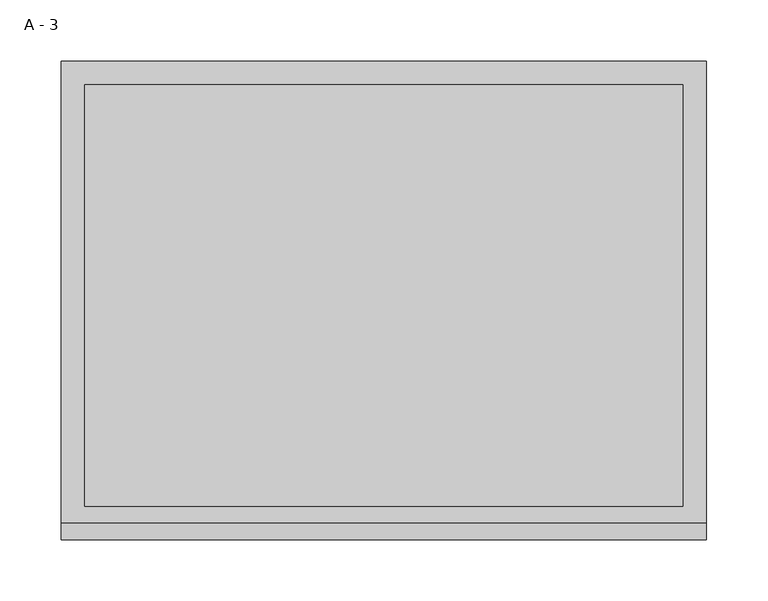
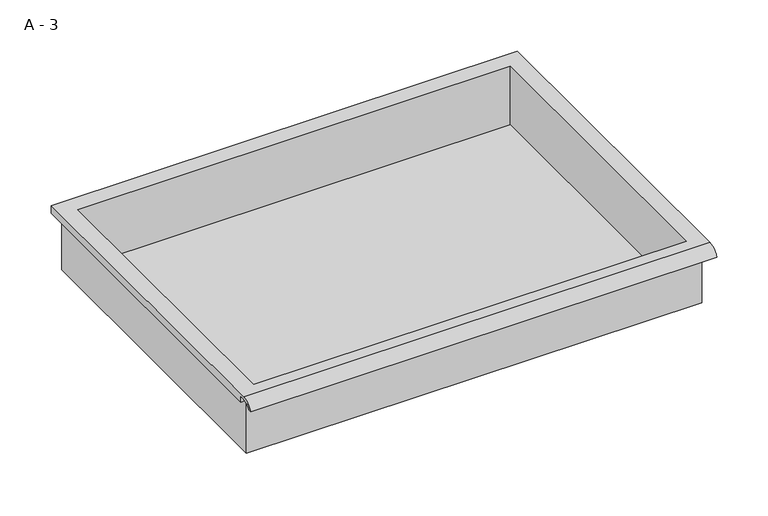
"""IFC4 building model written with IfcOpenShell, lengths in millimetres: furniture geometry, HermanMiller_CoStruc_CO207_Drawer : A - 3."""

import ifcopenshell
import ifcopenshell.guid

model = None  # the IFC model being written
_history = None  # IfcOwnerHistory: only IFC2X3 demands one
_inside = {}  # id of a spatial element -> (the spatial element, [elements in it])
_under = {}  # id of a project, library or spatial element -> (it, [spatial elements below it])
_declared = {}  # id of a project -> (the project, [libraries it declares])
_typed = {}  # id of a type object -> (the type object, [elements of that type])
_made_of = {}  # id of a material, layer set ... -> (it, [elements and type objects made of it])


def new_model(schema):
    """Start an empty IFC model of exactly this schema.

    Asked for "IFC4X3", IfcOpenShell would pick the latest addendum, in which some entities
    have other attributes; the version numbers below select the first issue.
    IFC2X3 requires an IfcOwnerHistory on every rooted entity: one is made here for all.
    """
    global model, _history
    if schema == "IFC4X3":
        model = ifcopenshell.file(schema_version=(4, 3, 0, 0))
    else:
        model = ifcopenshell.file(schema=schema)
    _inside.clear()
    _under.clear()
    _declared.clear()
    _typed.clear()
    _made_of.clear()
    _history = None
    if model.schema == "IFC2X3":
        org = make("IfcOrganization", Name="unknown")
        user = make(
            "IfcPersonAndOrganization",
            ThePerson=make("IfcPerson", FamilyName="unknown"),
            TheOrganization=org,
        )
        app = make(
            "IfcApplication",
            ApplicationDeveloper=org,
            Version="unknown",
            ApplicationFullName="unknown",
            ApplicationIdentifier="unknown",
        )
        _history = make(
            "IfcOwnerHistory",
            OwningUser=user,
            OwningApplication=app,
            ChangeAction="ADDED",
            CreationDate=0,
        )
    return model


def make(cls, **values):
    """One entity of the class cls with the attributes given. An attribute that is None is left unset."""
    return model.create_entity(
        cls, **{name: value for name, value in values.items() if value is not None}
    )


def rooted(cls, **values):
    """An entity with a GlobalId (a new one), such as an element, a storey or a relation."""
    return make(cls, GlobalId=ifcopenshell.guid.new(), OwnerHistory=_history, **values)


def si_unit(unit_type, name, prefix=None):
    """IfcSIUnit, for example si_unit("LENGTHUNIT", "METRE", prefix="MILLI")."""
    return make("IfcSIUnit", UnitType=unit_type, Prefix=prefix, Name=name)


def assignment(units):
    """IfcUnitAssignment: the units of a project."""
    return None if units is None else make("IfcUnitAssignment", Units=units)


def point(xyz):
    """IfcCartesianPoint."""
    return None if xyz is None else make("IfcCartesianPoint", Coordinates=xyz)


def direction(xyz):
    """IfcDirection."""
    return None if xyz is None else make("IfcDirection", DirectionRatios=xyz)


def frame(location, z_axis=None, x_axis=None):
    """IfcAxis2Placement3D, a coordinate frame: its origin and axes. An axis left out is left unset."""
    return make(
        "IfcAxis2Placement3D",
        Location=point(location),
        Axis=direction(z_axis),
        RefDirection=direction(x_axis),
    )


def origin():
    """The frame at (0, 0, 0) with its axes left unset."""
    return frame((0.0, 0.0, 0.0))


def place(relative_to, where):
    """IfcLocalPlacement: puts the frame where relative to a parent placement (None: the world)."""
    return make(
        "IfcLocalPlacement", PlacementRelTo=relative_to, RelativePlacement=where
    )


def context(
    kind, dimensions, precision=None, world=None, true_north=None, identifier=None
):
    """IfcGeometricRepresentationContext, for example the 3D "Model" context."""
    return make(
        "IfcGeometricRepresentationContext",
        ContextIdentifier=identifier,
        ContextType=kind,
        CoordinateSpaceDimension=dimensions,
        Precision=precision,
        WorldCoordinateSystem=world,
        TrueNorth=true_north,
    )


def project(units=None, contexts=None):
    """IfcProject with its units and contexts."""
    return rooted(
        "IfcProject",
        Name="project",
        RepresentationContexts=contexts,
        UnitsInContext=assignment(units),
    )


def spatial(cls, under=None, at=None, **own):
    """A site, building, storey or space (cls), placed at a placement, below another one or the project."""
    s = rooted(cls, ObjectPlacement=at, **own)
    if under is not None:
        _under.setdefault(under.id(), (under, []))[1].append(s)
    return s


def polyline(points):
    """IfcPolyline through the points."""
    return make("IfcPolyline", Points=[point(p) for p in points])


def circle_curve(where, radius):
    """IfcCircle in the frame where."""
    return make("IfcCircle", Position=where, Radius=radius)


def shape(context_of_items, identifier, shape_type, items):
    """IfcShapeRepresentation: the items that make up one representation, for example the "Body"."""
    return make(
        "IfcShapeRepresentation",
        ContextOfItems=context_of_items,
        RepresentationIdentifier=identifier,
        RepresentationType=shape_type,
        Items=items,
    )


def source(mapping_origin, context_of_items, identifier, shape_type, items):
    """IfcRepresentationMap: a shape defined once, which mapped items show again and again."""
    return make(
        "IfcRepresentationMap",
        MappingOrigin=mapping_origin,
        MappedRepresentation=shape(context_of_items, identifier, shape_type, items),
    )


def transform(
    local_origin,
    x_axis=None,
    y_axis=None,
    z_axis=None,
    scale=None,
    scale2=None,
    scale3=None,
    uniform=True,
):
    """IfcCartesianTransformationOperator3D, or its non-uniform kind. x_axis, y_axis, z_axis: its Axis1, 2, 3."""
    if uniform:
        return make(
            "IfcCartesianTransformationOperator3D",
            Axis1=direction(x_axis),
            Axis2=direction(y_axis),
            LocalOrigin=point(local_origin),
            Scale=scale,
            Axis3=direction(z_axis),
        )
    return make(
        "IfcCartesianTransformationOperator3DnonUniform",
        Axis1=direction(x_axis),
        Axis2=direction(y_axis),
        LocalOrigin=point(local_origin),
        Scale=scale,
        Axis3=direction(z_axis),
        Scale2=scale2,
        Scale3=scale3,
    )


def mapped(mapping_source, mapping_target):
    """IfcMappedItem: shows the shape of a source again, moved by a transform."""
    return make(
        "IfcMappedItem", MappingSource=mapping_source, MappingTarget=mapping_target
    )


def made_of(thing, what):
    """Note that an element or type object is made of a material, layer set ...; save() writes the relation."""
    if what is not None:
        _made_of.setdefault(what.id(), (what, []))[1].append(thing)
    return thing


def element(
    cls,
    number,
    at=None,
    inside=None,
    cuts=None,
    type_object=None,
    material=None,
    context=None,
    identifier="Body",
    shape_type=None,
    held_by="IfcProductDefinitionShape",
    body=None,
    shapes=None,
    **own,
):
    """One element of the class cls, such as IfcWall. Its Tag is "e" and its number.

    at: its placement. inside: the storey or other place that contains it. cuts: it is an
    opening in that element (IfcRelVoidsElement). A single representation is given by context,
    identifier, shape_type and body (its items); several are given by shapes. held_by: the class
    of the entity that holds the representations. save() writes the other relations.
    """
    e = rooted(cls, Tag="e%d" % number, ObjectPlacement=at, **own)
    if body is not None:
        shapes = [shape(context, identifier, shape_type, body)]
    if shapes is not None:
        e.Representation = make(held_by, Representations=shapes)
    if inside is not None:
        _inside.setdefault(inside.id(), (inside, []))[1].append(e)
    if cuts is not None:
        rooted(
            "IfcRelVoidsElement", RelatingBuildingElement=cuts, RelatedOpeningElement=e
        )
    if type_object is not None:
        _typed.setdefault(type_object.id(), (type_object, []))[1].append(e)
    return made_of(e, material)


def aggregate(whole, parts):
    """IfcRelAggregates: a whole, such as a stair, and the parts it consists of."""
    return rooted("IfcRelAggregates", RelatingObject=whole, RelatedObjects=parts)


def save(model, path):
    """Write the relations noted so far, then the file.

    IfcRelAggregates (storeys below a building ...), IfcRelContainedInSpatialStructure (elements
    in a storey), IfcRelDefinesByType, IfcRelAssociatesMaterial and IfcRelDeclares: one each for
    every whole, place, type object, material and project.
    """
    for whole, parts in _under.values():
        aggregate(whole, parts)
    for where, things in _inside.values():
        rooted(
            "IfcRelContainedInSpatialStructure",
            RelatedElements=things,
            RelatingStructure=where,
        )
    for kind, things in _typed.values():
        rooted("IfcRelDefinesByType", RelatedObjects=things, RelatingType=kind)
    for what, things in _made_of.values():
        rooted("IfcRelAssociatesMaterial", RelatedObjects=things, RelatingMaterial=what)
    for by, libraries in _declared.values():
        rooted("IfcRelDeclares", RelatingContext=by, RelatedDefinitions=libraries)
    model.write(path)


def plane_surface(at):
    """IfcPlane: the flat surface through the origin of the frame at, square to its z axis."""
    return make("IfcPlane", Position=at)


def cylinder_surface(at, radius):
    """IfcCylindricalSurface: all points at the distance radius from the z axis of the frame at."""
    return make("IfcCylindricalSurface", Position=at, Radius=radius)


def revolved_surface(curve, axis_point, axis_direction):
    """IfcSurfaceOfRevolution: the curve turned about the line through axis_point along axis_direction."""
    return make(
        "IfcSurfaceOfRevolution",
        SweptCurve=make("IfcArbitraryOpenProfileDef", ProfileType="CURVE", Curve=curve),
        AxisPosition=make("IfcAxis1Placement", Location=point(axis_point), Axis=direction(axis_direction)),
    )


def advanced_brep(points, edges, surfaces, faces):
    """IfcAdvancedBrep: a solid bounded by faces that lie on surfaces and meet in shared edges.

    An edge is (start, end): straight between two places in points (the first is 0);
    or (start, end, curve); or (start, end, curve, False) where it runs against its curve.
    A face is (place in surfaces, loops), or (place, loops, False) where it looks against
    its surface's normal. A loop lists edges by number (the first is 1), with a minus sign
    where the edge is run from its end to its start. The first loop is the outer one.
    """
    corners = [point(p) for p in points]
    vertices = [make("IfcVertexPoint", VertexGeometry=c) for c in corners]
    made = []
    for start, end, *more in edges:
        made.append(
            make(
                "IfcEdgeCurve",
                EdgeStart=vertices[start],
                EdgeEnd=vertices[end],
                EdgeGeometry=more[0] if more else make("IfcPolyline", Points=[corners[start], corners[end]]),
                SameSense=more[1] if len(more) > 1 else True,
            )
        )
    hull = []
    for where, loops, *sense in faces:
        bounds = []
        for j, loop in enumerate(loops):
            ring = [make("IfcOrientedEdge", EdgeElement=made[abs(k) - 1], Orientation=k > 0) for k in loop]
            bounds.append(
                make(
                    "IfcFaceOuterBound" if j == 0 else "IfcFaceBound",
                    Bound=make("IfcEdgeLoop", EdgeList=ring),
                    Orientation=True,
                )
            )
        hull.append(make("IfcAdvancedFace", Bounds=bounds, FaceSurface=surfaces[where], SameSense=sense[0] if sense else True))
    return make("IfcAdvancedBrep", Outer=make("IfcClosedShell", CfsFaces=hull))


def a_3_4c20d9f5(model_context):
    return source(origin(), model_context, "Body", "AdvancedBrep", [
        advanced_brep(
        [(-257.1076517, -176.2125, 789.78252), (257.2423483, -176.2125, 789.78252), (257.2423483, -176.2125, 853.28252), (263.5923483, -176.2125, 853.28252), (263.5923483, -176.2125, 859.5896541), (-263.4576517, -176.2125, 859.5896541), (-263.4576517, -176.2125, 853.28252), (-257.1076517, -176.2125, 853.28252), (257.2423483, 185.7375, 789.78252), (-257.1076517, 185.7375, 789.78252), (-257.1076517, 185.7375, 853.28252), (257.2423483, 185.7375, 853.28252), (263.5923483, -181.6070544, 862.80752), (263.5923483, 195.2625, 862.80752), (-263.4576517, 195.2625, 862.80752), (-263.4576517, -181.6070544, 862.80752), (244.5423483, -168.275, 862.80752), (-244.4076517, -168.275, 862.80752), (-244.4076517, 176.2125, 862.80752), (244.5423483, 176.2125, 862.80752), (263.5923483, -195.2625, 853.28252), (263.5923483, -191.8280601, 853.28252), (263.5923483, -180.4714815, 859.5896541), (263.5923483, 195.2625, 853.28252), (-263.4576517, 195.2625, 853.28252), (-263.4576517, -180.4714815, 859.5896541), (-263.4576517, -191.8280601, 853.28252), (-263.4576517, -195.2625, 853.28252), (-244.4076517, -168.275, 792.8086919), (244.5423483, -168.275, 792.8086919), (244.5423483, 176.2125, 792.8086919), (-244.4076517, 176.2125, 792.8086919)],
        [
            (0, 1),
            (1, 2),
            (2, 3),
            (3, 4),
            (4, 5),
            (5, 6),
            (6, 7),
            (7, 0),
            (8, 9),
            (9, 10),
            (10, 11),
            (11, 8),
            (0, 9),
            (8, 1),
            (11, 2),
            (12, 13),
            (13, 14),
            (14, 15),
            (15, 12),
            (16, 17),
            (17, 18),
            (18, 19),
            (19, 16),
            (7, 10),
            (12, 20, circle_curve(frame((263.5923483, -181.6070544, 848.2565059), z_axis=(1.0, 0.0, 0.0), x_axis=(0.0, 1.0, 0.0)), 14.5510141)),
            (20, 21),
            (21, 22, circle_curve(frame((263.5923483, -181.6070544, 848.2565059), z_axis=(-1.0, 0.0, 0.0), x_axis=(0.0, 1.0, 0.0)), 11.3898979)),
            (22, 4),
            (3, 23),
            (23, 13),
            (14, 24),
            (24, 6),
            (5, 25),
            (25, 26, circle_curve(frame((-263.4576517, -181.6070544, 848.2565059), z_axis=(1.0, 0.0, 0.0), x_axis=(0.0, 1.0, 0.0)), 11.3898979)),
            (26, 27),
            (27, 15, circle_curve(frame((-263.4576517, -181.6070544, 848.2565059), z_axis=(-1.0, 0.0, 0.0), x_axis=(0.0, 1.0, 0.0)), 14.5510141)),
            (27, 20),
            (26, 21),
            (25, 22),
            (24, 23),
            (28, 29),
            (29, 30),
            (30, 31),
            (31, 28),
            (28, 17),
            (16, 29),
            (19, 30),
            (18, 31),
        ],
        [
            plane_surface(frame((257.2423483, -176.2125, 789.78252), z_axis=(0.0, -1.0, 0.0), x_axis=(1.0, 0.0, 0.0))),
            plane_surface(frame((257.2423483, 185.7375, 789.78252), z_axis=(0.0, 1.0, 0.0), x_axis=(-1.0, 0.0, 0.0))),
            plane_surface(frame((-257.1076517, -176.2125, 789.78252), z_axis=(0.0, 0.0, -1.0), x_axis=(0.0, 1.0, 0.0))),
            plane_surface(frame((257.2423483, -176.2125, 789.78252), z_axis=(1.0, 0.0, 0.0), x_axis=(0.0, 1.0, 0.0))),
            plane_surface(frame((257.2423483, -176.2125, 862.80752), z_axis=(0.0, 0.0, 1.0), x_axis=(0.0, 1.0, 0.0))),
            plane_surface(frame((-257.1076517, -176.2125, 862.80752), z_axis=(-1.0, 0.0, 0.0), x_axis=(0.0, 1.0, 0.0))),
            plane_surface(frame((263.5923483, 195.2625, 862.80752), z_axis=(1.0, 0.0, 0.0), x_axis=(0.0, -1.0, 0.0))),
            plane_surface(frame((-263.4576517, 195.2625, 862.80752), z_axis=(-1.0, 0.0, 0.0), x_axis=(0.0, 1.0, 0.0))),
            cylinder_surface(frame((-263.4576517, -181.6070544, 848.2565059), z_axis=(1.0, 0.0, 0.0), x_axis=(0.0, 1.0, 0.0)), 14.5510141),
            plane_surface(frame((263.5923483, -195.2625, 853.28252), z_axis=(0.0, -7.133584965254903e-12, -1.0), x_axis=(-1.0, 0.0, 0.0))),
            revolved_surface(polyline([(-263.4576517, -170.21715650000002, 848.2565059), (263.59234829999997, -170.21715650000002, 848.2565059)]), (-263.4576517, -181.6070544, 848.2565059), (-1.0, 0.0, 0.0)),
            plane_surface(frame((263.5923483, -180.4714815, 859.5896541), z_axis=(0.0, -1.770250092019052e-11, -1.0), x_axis=(-1.0, 0.0, 0.0))),
            plane_surface(frame((263.5923483, -176.2125, 853.28252), z_axis=(0.0, 0.0, -1.0), x_axis=(-1.0, 0.0, 0.0))),
            plane_surface(frame((263.5923483, 195.2625, 853.28252), z_axis=(0.0, 1.0, 0.0), x_axis=(-1.0, 0.0, 0.0))),
            plane_surface(frame((244.5423483, -168.275, 792.8086919), z_axis=(0.0, 0.0, 1.0), x_axis=(-1.0, 0.0, 0.0))),
            plane_surface(frame((-244.4076517, -168.275, 862.80752), z_axis=(0.0, 1.0, 0.0), x_axis=(0.0, 0.0, -1.0))),
            plane_surface(frame((244.5423483, -168.275, 862.80752), z_axis=(-1.0, 0.0, 0.0), x_axis=(0.0, 0.0, -1.0))),
            plane_surface(frame((244.5423483, 176.2125, 862.80752), z_axis=(0.0, -1.0, 0.0), x_axis=(0.0, 0.0, -1.0))),
            plane_surface(frame((-244.4076517, 176.2125, 862.80752), z_axis=(1.0, 0.0, 0.0), x_axis=(0.0, 0.0, -1.0))),
        ],
        [
            (0, [[1, 2, 3, 4, 5, 6, 7, 8]]),
            (1, [[9, 10, 11, 12]]),
            (2, [[-1, 13, -9, 14]]),
            (3, [[-14, -12, 15, -2]]),
            (4, [[16, 17, 18, 19], [20, 21, 22, 23]]),
            (5, [[-13, -8, 24, -10]]),
            (6, [[-16, 25, 26, 27, 28, -4, 29, 30]]),
            (7, [[31, 32, -6, 33, 34, 35, 36, -18]]),
            (8, [[-25, -19, -36, 37]]),
            (9, [[-26, -37, -35, 38]]),
            (10, [[-27, -38, -34, 39]]),
            (11, [[-28, -39, -33, -5]]),
            (12, [[-29, -3, -15, -11, -24, -7, -32, 40]]),
            (13, [[-30, -40, -31, -17]]),
            (14, [[41, 42, 43, 44]]),
            (15, [[-41, 45, -20, 46]]),
            (16, [[-42, -46, -23, 47]]),
            (17, [[-43, -47, -22, 48]]),
            (18, [[-44, -48, -21, -45]]),
        ],
    ),
    ])


if __name__ == "__main__":
    model = new_model("IFC4")
    model_context = context("Model", 3, world=origin())
    ifc_project = project(units=[si_unit("LENGTHUNIT", "METRE", prefix="MILLI")], contexts=[model_context])
    site = spatial("IfcSite", under=ifc_project)
    building = spatial("IfcBuilding", under=site)
    placement = place(None, origin())
    a_3_shape = a_3_4c20d9f5(model_context)
    element("IfcFurniture", 1, ObjectType="HermanMiller_CoStruc_CO207_Drawer : A - 3", at=placement, inside=building, context=model_context, shape_type="MappedRepresentation", body=[
        mapped(a_3_shape, transform((0.0, 0.0, 0.0), x_axis=(1.0, 0.0, 0.0), y_axis=(0.0, 1.0, 0.0), z_axis=(0.0, 0.0, 1.0))),
    ])
    save(model, "model.ifc")
